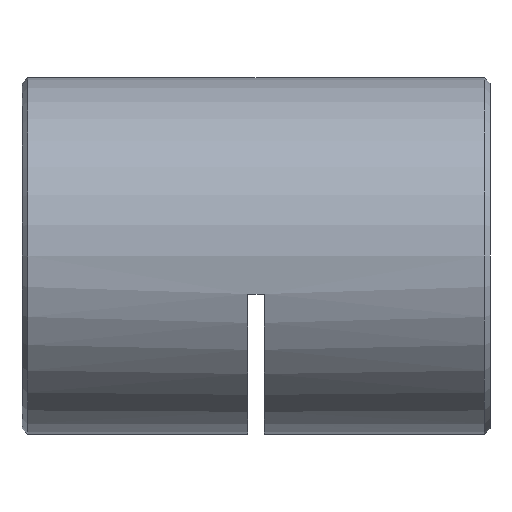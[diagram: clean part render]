
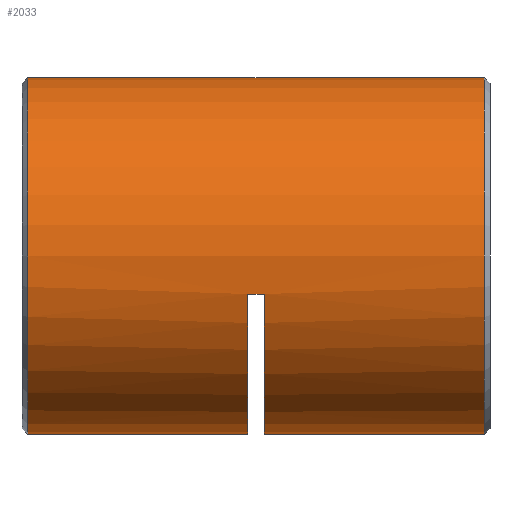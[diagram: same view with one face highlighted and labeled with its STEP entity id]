
A CAD part, left-side view. The second image highlights one B-rep face of the part: STEP entity #2033.
In plain terms, the highlighted cylindrical face has radius 16 mm (diameter 32 mm), a partial arc.
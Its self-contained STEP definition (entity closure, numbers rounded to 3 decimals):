
#58 = CARTESIAN_POINT ( 'NONE',  ( 0., 41.75, 16. ) ) ;
#112 = DIRECTION ( 'NONE',  ( 0., 0., -1. ) ) ;
#135 = ORIENTED_EDGE ( 'NONE', *, *, #5437, .T. ) ;
#247 = DIRECTION ( 'NONE',  ( 0., -1., 0. ) ) ;
#278 = VECTOR ( 'NONE', #863, 1000. ) ;
#409 = VECTOR ( 'NONE', #3464, 1000. ) ;
#433 = LINE ( 'NONE', #3279, #278 ) ;
#601 = VECTOR ( 'NONE', #1894, 1000. ) ;
#614 = EDGE_CURVE ( 'NONE', #1318, #2251, #2621, .T. ) ;
#729 = VERTEX_POINT ( 'NONE', #58 ) ;
#762 = LINE ( 'NONE', #4846, #601 ) ;
#815 = DIRECTION ( 'NONE',  ( 0., 0., 1. ) ) ;
#819 = LINE ( 'NONE', #1849, #2597 ) ;
#862 = CARTESIAN_POINT ( 'NONE',  ( 0., 0.75, 16. ) ) ;
#863 = DIRECTION ( 'NONE',  ( 0., -1., 0. ) ) ;
#958 = CARTESIAN_POINT ( 'NONE',  ( 0., 22., 0. ) ) ;
#1127 = EDGE_CURVE ( 'NONE', #3063, #5560, #4947, .T. ) ;
#1318 = VERTEX_POINT ( 'NONE', #3219 ) ;
#1373 = AXIS2_PLACEMENT_3D ( 'NONE', #1644, #247, #5196 ) ;
#1594 = EDGE_CURVE ( 'NONE', #2326, #3063, #1857, .T. ) ;
#1644 = CARTESIAN_POINT ( 'NONE',  ( 0., 42.5, 0. ) ) ;
#1849 = CARTESIAN_POINT ( 'NONE',  ( 0., 42.5, -16. ) ) ;
#1857 = LINE ( 'NONE', #3878, #409 ) ;
#1894 = DIRECTION ( 'NONE',  ( 0., -1., 0. ) ) ;
#1949 = CARTESIAN_POINT ( 'NONE',  ( 0., 20.5, -16. ) ) ;
#1969 = CIRCLE ( 'NONE', #5830, 16. ) ;
#1976 = ORIENTED_EDGE ( 'NONE', *, *, #614, .T. ) ;
#1999 = CARTESIAN_POINT ( 'NONE',  ( 0., 41.75, -16. ) ) ;
#2033 = ADVANCED_FACE ( 'NONE', ( #2172 ), #6097, .T. ) ;
#2172 = FACE_OUTER_BOUND ( 'NONE', #5589, .T. ) ;
#2192 = AXIS2_PLACEMENT_3D ( 'NONE', #2284, #2786, #815 ) ;
#2251 = VERTEX_POINT ( 'NONE', #862 ) ;
#2272 = ORIENTED_EDGE ( 'NONE', *, *, #5024, .T. ) ;
#2284 = CARTESIAN_POINT ( 'NONE',  ( 0., 0.75, 0. ) ) ;
#2326 = VERTEX_POINT ( 'NONE', #3932 ) ;
#2419 = DIRECTION ( 'NONE',  ( 0., 0., -1. ) ) ;
#2597 = VECTOR ( 'NONE', #4276, 1000. ) ;
#2621 = CIRCLE ( 'NONE', #2192, 16. ) ;
#2622 = DIRECTION ( 'NONE',  ( 0., -1., 0. ) ) ;
#2786 = DIRECTION ( 'NONE',  ( 0., 1., 0. ) ) ;
#2870 = AXIS2_PLACEMENT_3D ( 'NONE', #6337, #4329, #3383 ) ;
#2930 = VERTEX_POINT ( 'NONE', #3195 ) ;
#3063 = VERTEX_POINT ( 'NONE', #3445 ) ;
#3126 = ORIENTED_EDGE ( 'NONE', *, *, #4206, .F. ) ;
#3195 = CARTESIAN_POINT ( 'NONE',  ( 0., 22., -16. ) ) ;
#3219 = CARTESIAN_POINT ( 'NONE',  ( 0., 0.75, -16. ) ) ;
#3279 = CARTESIAN_POINT ( 'NONE',  ( 0., 42.5, 16. ) ) ;
#3383 = DIRECTION ( 'NONE',  ( 0., 0., -1. ) ) ;
#3445 = CARTESIAN_POINT ( 'NONE',  ( -15.632, 20.5, -3.413 ) ) ;
#3464 = DIRECTION ( 'NONE',  ( 0., -1., 0. ) ) ;
#3520 = CARTESIAN_POINT ( 'NONE',  ( 0., 41.75, 0. ) ) ;
#3525 = AXIS2_PLACEMENT_3D ( 'NONE', #3520, #2622, #112 ) ;
#3814 = ORIENTED_EDGE ( 'NONE', *, *, #4759, .T. ) ;
#3878 = CARTESIAN_POINT ( 'NONE',  ( -15.632, 21.25, -3.413 ) ) ;
#3932 = CARTESIAN_POINT ( 'NONE',  ( -15.632, 22., -3.413 ) ) ;
#4206 = EDGE_CURVE ( 'NONE', #2326, #2930, #1969, .T. ) ;
#4276 = DIRECTION ( 'NONE',  ( 0., -1., 0. ) ) ;
#4329 = DIRECTION ( 'NONE',  ( 0., -1., 0. ) ) ;
#4420 = DIRECTION ( 'NONE',  ( 0., -1., 0. ) ) ;
#4605 = ORIENTED_EDGE ( 'NONE', *, *, #1594, .T. ) ;
#4759 = EDGE_CURVE ( 'NONE', #5560, #1318, #762, .T. ) ;
#4791 = VERTEX_POINT ( 'NONE', #1999 ) ;
#4846 = CARTESIAN_POINT ( 'NONE',  ( 0., 42.5, -16. ) ) ;
#4947 = CIRCLE ( 'NONE', #2870, 16. ) ;
#5024 = EDGE_CURVE ( 'NONE', #729, #4791, #5977, .T. ) ;
#5196 = DIRECTION ( 'NONE',  ( 0., 0., -1. ) ) ;
#5345 = ORIENTED_EDGE ( 'NONE', *, *, #5904, .F. ) ;
#5437 = EDGE_CURVE ( 'NONE', #4791, #2930, #819, .T. ) ;
#5560 = VERTEX_POINT ( 'NONE', #1949 ) ;
#5589 = EDGE_LOOP ( 'NONE', ( #5345, #2272, #135, #3126, #4605, #5816, #3814, #1976 ) ) ;
#5816 = ORIENTED_EDGE ( 'NONE', *, *, #1127, .T. ) ;
#5830 = AXIS2_PLACEMENT_3D ( 'NONE', #958, #4420, #2419 ) ;
#5904 = EDGE_CURVE ( 'NONE', #729, #2251, #433, .T. ) ;
#5977 = CIRCLE ( 'NONE', #3525, 16. ) ;
#6097 = CYLINDRICAL_SURFACE ( 'NONE', #1373, 16. ) ;
#6337 = CARTESIAN_POINT ( 'NONE',  ( 0., 20.5, 0. ) ) ;
